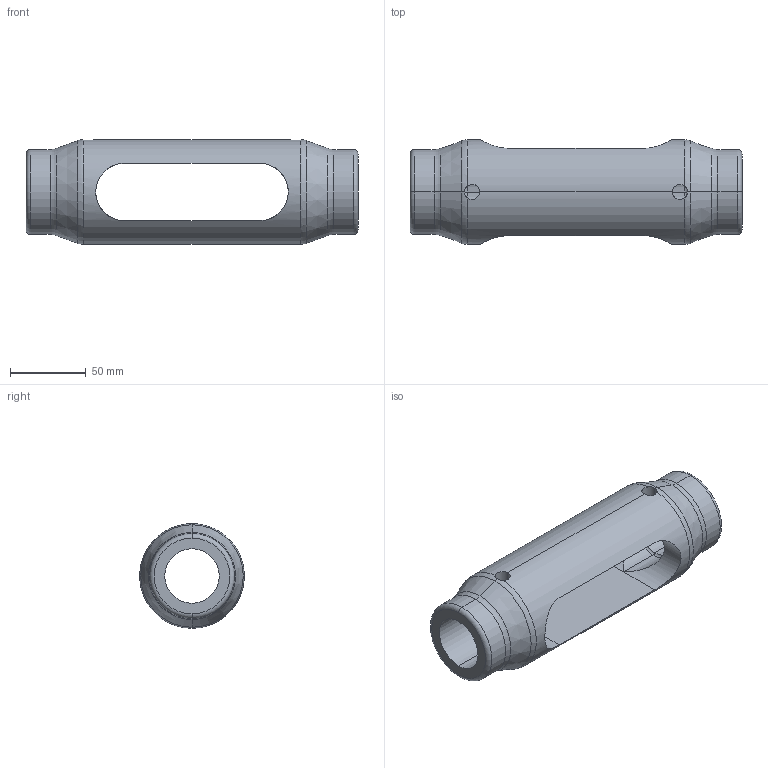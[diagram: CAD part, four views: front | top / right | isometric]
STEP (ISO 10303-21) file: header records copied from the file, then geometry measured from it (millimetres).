
FILE_DESCRIPTION (( 'STEP AP203' ), '1' );
FILE_NAME ('Kreuzmuffe M36.STEP', '2018-03-14T05:16:30', ( 'install' ), ( 'Hewlett-Packard Company' ), 'SwSTEP 2.0', 'SolidWorks 2017', '' );
FILE_SCHEMA (( 'CONFIG_CONTROL_DESIGN' ));
Length unit declared in the file: millimetre
Products named in the file (1): Kreuzmuffe M36
Bounding box: 219 x 69 x 69 mm (x, y, z)
Volume: 347756.6 mm3; surface area: 66452.8 mm2
Topology: 1 solids, 1 shells, 46 faces, 108 edges, 58 vertices
Faces by surface type: cylinder 22, torus 16, cone 4, plane 4
Entity records: 1869 total; most frequent: CARTESIAN_POINT 751, DIRECTION 228, ORIENTED_EDGE 216, EDGE_CURVE 108, AXIS2_PLACEMENT_3D 97, VERTEX_POINT 58, EDGE_LOOP 50, CIRCLE 50
